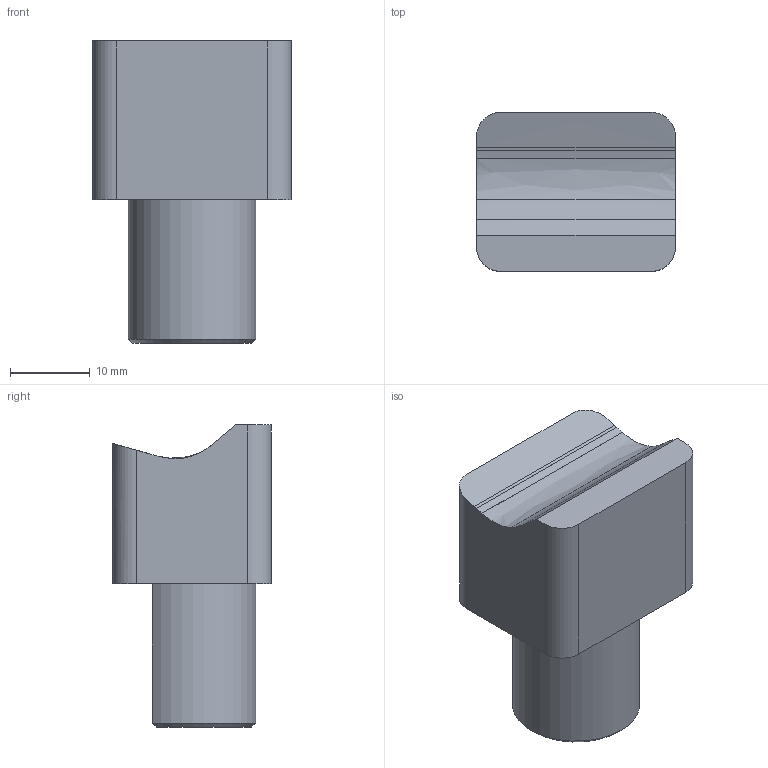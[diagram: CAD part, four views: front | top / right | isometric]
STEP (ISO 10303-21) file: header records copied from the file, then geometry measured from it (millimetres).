
FILE_DESCRIPTION(('CATIA V5 STEP Exchange'),'2;1');
FILE_NAME('G:\够快云库\系统集成开发部\1.部门成员\孙国\工装\速降阀寿命耐久\STP\GZ-SJNJ.03_V1 按压触头.stp','2021-05-28T06:51:47+00:00',('none'),('none'),'CATIA Version 5 Release 20 GA (IN-10)','CATIA V5 STEP AP214','none');
FILE_SCHEMA(('AUTOMOTIVE_DESIGN { 1 0 10303 214 1 1 1 1 }'));
Length unit declared in the file: millimetre
Products named in the file (1): 按压触头
Bounding box: 25 x 20 x 38 mm (x, y, z)
Volume: 11809.3 mm3; surface area: 3430.2 mm2
Topology: 1 solids, 1 shells, 23 faces, 58 edges, 38 vertices
Faces by surface type: plane 12, cylinder 7, extrusion 3, cone 1
Entity records: 774 total; most frequent: CARTESIAN_POINT 220, ORIENTED_EDGE 116, DIRECTION 89, EDGE_CURVE 58, VECTOR 38, VERTEX_POINT 38, LINE 35, AXIS2_PLACEMENT_3D 33
